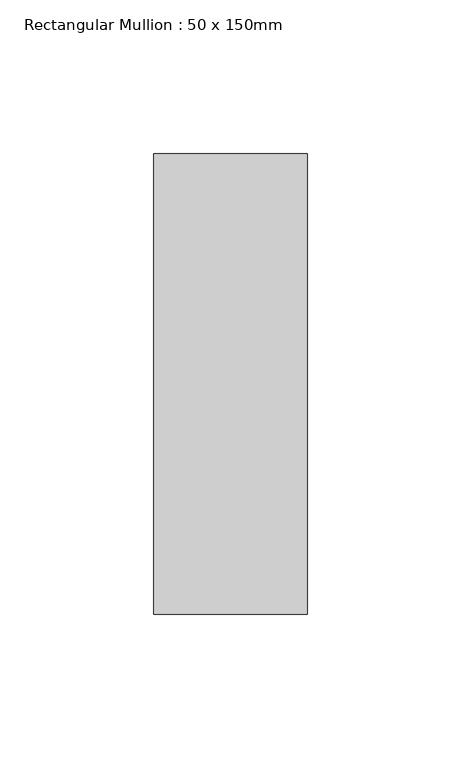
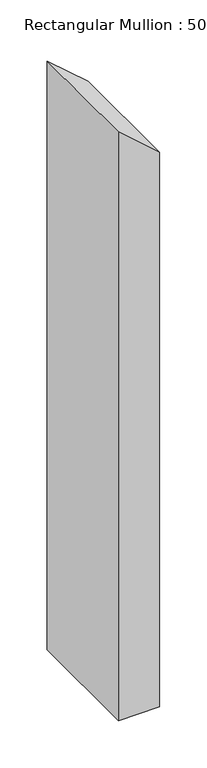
"""IFC4 building model written with IfcOpenShell, lengths in millimetres: member geometry, Rectangular Mullion : 50 x 150mm."""

from ifc_helpers import new_model, si_unit, frame, origin, place, context, project, spatial, polyline, outline, extrude, source, transform, mapped, element, save


def rectangular_mullion_50_x_150mm_0cfbacce(model_context):
    return source(origin(), model_context, "Body", "SweptSolid", [
        extrude(outline(polyline([(-88.415239, 25.0), (-44.5773716, -25.0), (-802.5878955, -25.0), (-802.5878955, 25.0), (-88.415239, 25.0)])), frame((0.0, -75.0, 0.0), z_axis=(0.0, 1.0, 0.0), x_axis=(0.0, 0.0, 1.0)), (0.0, 0.0, 1.0), 150.0),
    ])


if __name__ == "__main__":
    model = new_model("IFC4")
    model_context = context("Model", 3, world=origin())
    ifc_project = project(units=[si_unit("LENGTHUNIT", "METRE", prefix="MILLI")], contexts=[model_context])
    site = spatial("IfcSite", under=ifc_project)
    building = spatial("IfcBuilding", under=site)
    placement = place(None, origin())
    rectangular_mullion_50_x_150mm_shape = rectangular_mullion_50_x_150mm_0cfbacce(model_context)
    element("IfcMember", 1, ObjectType="Rectangular Mullion : 50 x 150mm", at=placement, inside=building, context=model_context, shape_type="MappedRepresentation", body=[
        mapped(rectangular_mullion_50_x_150mm_shape, transform((0.0, 0.0, 0.0), x_axis=(1.0, 0.0, 0.0), y_axis=(0.0, 1.0, 0.0), z_axis=(0.0, 0.0, 1.0))),
    ])
    save(model, "model.ifc")
